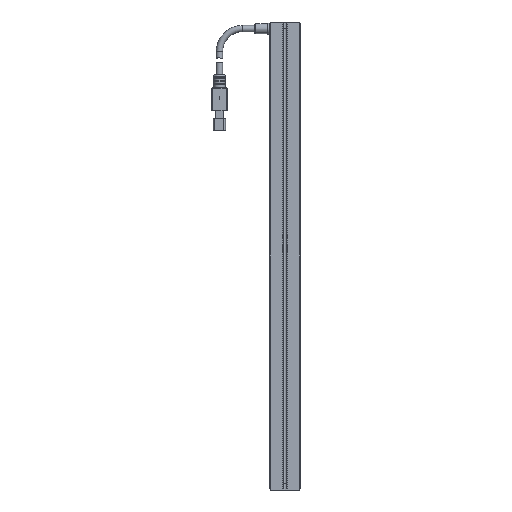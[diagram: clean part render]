
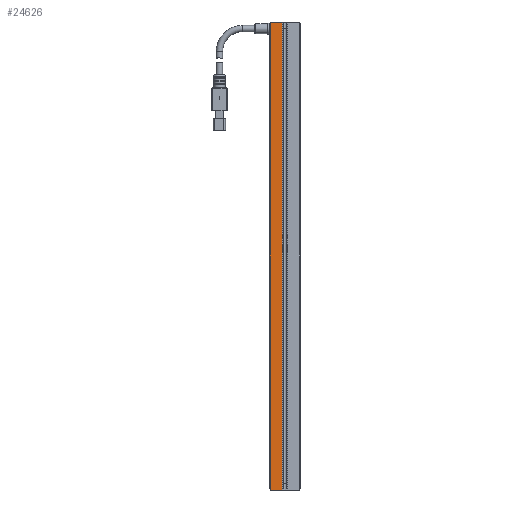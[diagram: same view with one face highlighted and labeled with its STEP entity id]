
A CAD part, front view. The second image highlights one B-rep face of the part: STEP entity #24626.
In plain terms, the highlighted planar face has unit normal (0, -1, 0).
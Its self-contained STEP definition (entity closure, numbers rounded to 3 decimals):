
#1014 = DIRECTION ( 'NONE',  ( -0.707, 0., -0.707 ) ) ;
#1201 = ORIENTED_EDGE ( 'NONE', *, *, #4007, .F. ) ;
#1287 = LINE ( 'NONE', #19711, #10069 ) ;
#1326 = VERTEX_POINT ( 'NONE', #11794 ) ;
#1816 = CARTESIAN_POINT ( 'NONE',  ( -9.5, 0., -151.5 ) ) ;
#1859 = VERTEX_POINT ( 'NONE', #1816 ) ;
#1937 = FACE_OUTER_BOUND ( 'NONE', #12724, .T. ) ;
#2910 = DIRECTION ( 'NONE',  ( 0., -1., 0. ) ) ;
#3574 = AXIS2_PLACEMENT_3D ( 'NONE', #25625, #2910, #9187 ) ;
#4007 = EDGE_CURVE ( 'NONE', #17741, #1326, #1287, .T. ) ;
#4280 = ORIENTED_EDGE ( 'NONE', *, *, #11904, .T. ) ;
#4513 = ORIENTED_EDGE ( 'NONE', *, *, #24256, .T. ) ;
#5706 = LINE ( 'NONE', #10948, #26149 ) ;
#5930 = CARTESIAN_POINT ( 'NONE',  ( 0., 0., -152. ) ) ;
#7393 = CARTESIAN_POINT ( 'NONE',  ( -9., 0., 152. ) ) ;
#8555 = ORIENTED_EDGE ( 'NONE', *, *, #23481, .F. ) ;
#8730 = CARTESIAN_POINT ( 'NONE',  ( 0., 0., 152. ) ) ;
#9187 = DIRECTION ( 'NONE',  ( 1., 0., 0. ) ) ;
#9255 = VERTEX_POINT ( 'NONE', #7393 ) ;
#9513 = CARTESIAN_POINT ( 'NONE',  ( -1.75, 0., 152. ) ) ;
#10069 = VECTOR ( 'NONE', #19378, 1000. ) ;
#10232 = LINE ( 'NONE', #8730, #11792 ) ;
#10347 = VERTEX_POINT ( 'NONE', #16694 ) ;
#10948 = CARTESIAN_POINT ( 'NONE',  ( -4.5, 0., 156.5 ) ) ;
#11072 = EDGE_CURVE ( 'NONE', #10347, #1859, #16228, .T. ) ;
#11792 = VECTOR ( 'NONE', #16490, 1000. ) ;
#11794 = CARTESIAN_POINT ( 'NONE',  ( -1.75, 0., -152. ) ) ;
#11904 = EDGE_CURVE ( 'NONE', #17741, #9255, #10232, .T. ) ;
#12586 = EDGE_CURVE ( 'NONE', #1859, #21895, #16214, .T. ) ;
#12724 = EDGE_LOOP ( 'NONE', ( #4280, #4513, #22116, #17452, #8555, #1201 ) ) ;
#13012 = VECTOR ( 'NONE', #26151, 1000. ) ;
#13174 = PLANE ( 'NONE',  #3574 ) ;
#14067 = VECTOR ( 'NONE', #24234, 1000. ) ;
#15879 = VECTOR ( 'NONE', #24119, 1000. ) ;
#16050 = CARTESIAN_POINT ( 'NONE',  ( -9., 0., -152. ) ) ;
#16214 = LINE ( 'NONE', #23826, #13012 ) ;
#16228 = LINE ( 'NONE', #19970, #15879 ) ;
#16490 = DIRECTION ( 'NONE',  ( -1., 0., 0. ) ) ;
#16694 = CARTESIAN_POINT ( 'NONE',  ( -9.5, 0., 151.5 ) ) ;
#17452 = ORIENTED_EDGE ( 'NONE', *, *, #12586, .T. ) ;
#17741 = VERTEX_POINT ( 'NONE', #9513 ) ;
#19378 = DIRECTION ( 'NONE',  ( 0., 0., -1. ) ) ;
#19711 = CARTESIAN_POINT ( 'NONE',  ( -1.75, 0., 152. ) ) ;
#19970 = CARTESIAN_POINT ( 'NONE',  ( -9.5, 0., 152. ) ) ;
#21895 = VERTEX_POINT ( 'NONE', #16050 ) ;
#22116 = ORIENTED_EDGE ( 'NONE', *, *, #11072, .T. ) ;
#23481 = EDGE_CURVE ( 'NONE', #1326, #21895, #26240, .T. ) ;
#23826 = CARTESIAN_POINT ( 'NONE',  ( -156.5, 0., -4.5 ) ) ;
#24119 = DIRECTION ( 'NONE',  ( 0., 0., -1. ) ) ;
#24234 = DIRECTION ( 'NONE',  ( -1., 0., 0. ) ) ;
#24256 = EDGE_CURVE ( 'NONE', #9255, #10347, #5706, .T. ) ;
#24626 = ADVANCED_FACE ( 'NONE', ( #1937 ), #13174, .T. ) ;
#25625 = CARTESIAN_POINT ( 'NONE',  ( 0., 0., 152. ) ) ;
#26149 = VECTOR ( 'NONE', #1014, 1000. ) ;
#26151 = DIRECTION ( 'NONE',  ( 0.707, 0., -0.707 ) ) ;
#26240 = LINE ( 'NONE', #5930, #14067 ) ;
